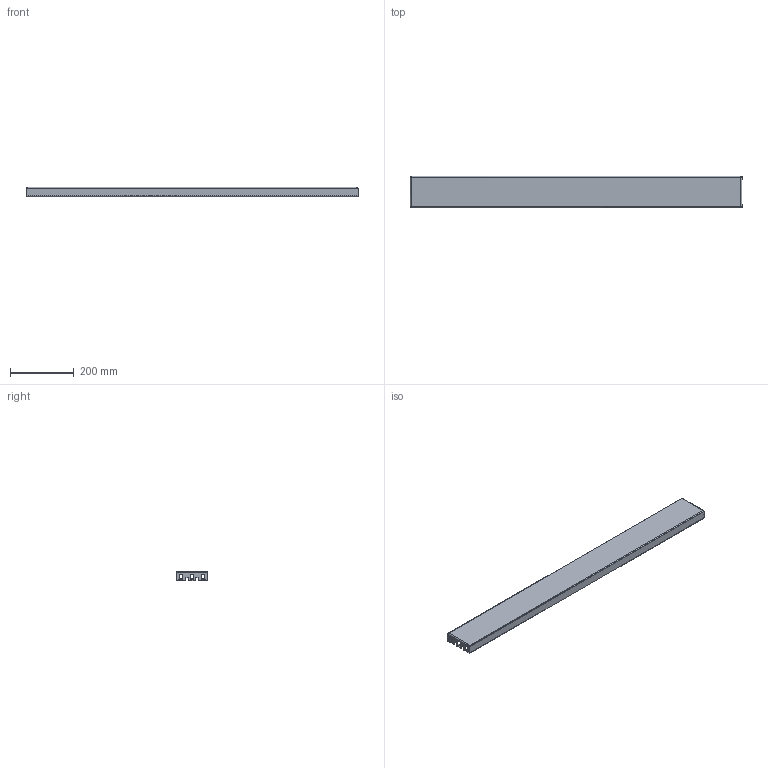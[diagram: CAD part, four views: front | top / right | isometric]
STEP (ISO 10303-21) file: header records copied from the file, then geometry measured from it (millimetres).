
FILE_DESCRIPTION (( 'STEP AP203' ), '1' );
FILE_NAME ('EUZE-T1200.STEP', '2020-03-09T14:50:27', ( '' ), ( '' ), 'SwSTEP 2.0', 'SolidWorks 2019', '' );
FILE_SCHEMA (( 'CONFIG_CONTROL_DESIGN' ));
Length unit declared in the file: millimetre
Products named in the file (1): EUZE-T1200
Bounding box: 1044 x 99 x 30 mm (x, y, z)
Volume: 356553.6 mm3; surface area: 362929.7 mm2
Topology: 1 solids, 1 shells, 158 faces, 420 edges, 264 vertices
Faces by surface type: plane 110, cylinder 40, bspline 8
Entity records: 5147 total; most frequent: CARTESIAN_POINT 1173, ORIENTED_EDGE 840, DIRECTION 754, EDGE_CURVE 420, LINE 324, VECTOR 324, VERTEX_POINT 264, AXIS2_PLACEMENT_3D 215
